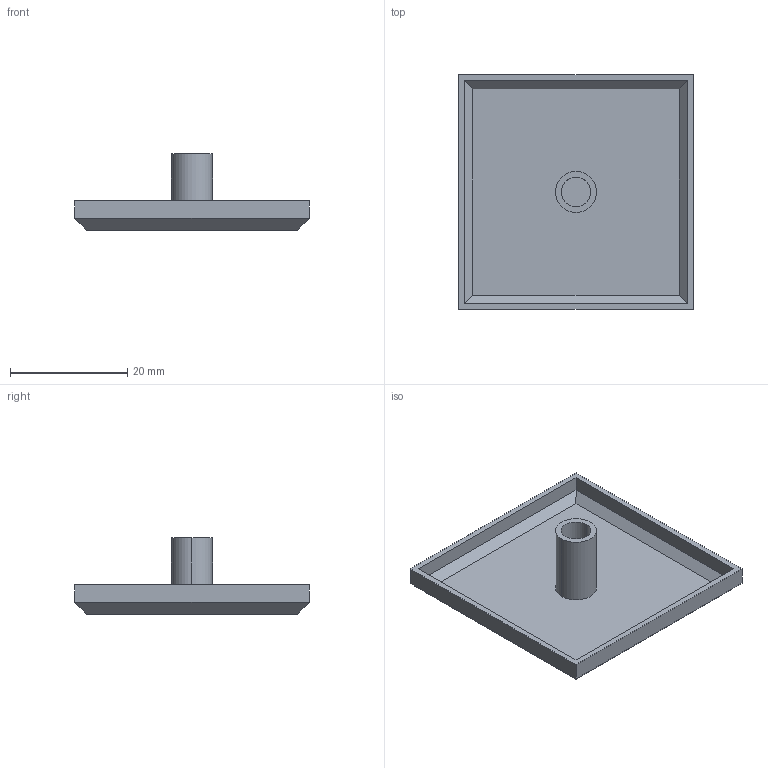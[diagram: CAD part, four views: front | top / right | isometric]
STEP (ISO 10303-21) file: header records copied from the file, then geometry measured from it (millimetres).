
FILE_DESCRIPTION (( 'STEP AP203' ), '1' );
FILE_NAME ('168-CE-CP-4040.STEP', '2015-07-09T09:13:09', ( '' ), ( '' ), 'SwSTEP 2.0', 'SolidWorks 2013', '' );
FILE_SCHEMA (( 'CONFIG_CONTROL_DESIGN' ));
Length unit declared in the file: millimetre
Products named in the file (1): 168-CE-CP-4040
Bounding box: 40 x 40 x 13 mm (x, y, z)
Volume: 2289.1 mm3; surface area: 4737.1 mm2
Topology: 1 solids, 1 shells, 25 faces, 52 edges, 32 vertices
Faces by surface type: plane 21, cylinder 4
Entity records: 727 total; most frequent: DIRECTION 112, CARTESIAN_POINT 110, ORIENTED_EDGE 104, EDGE_CURVE 52, LINE 44, VECTOR 44, AXIS2_PLACEMENT_3D 34, VERTEX_POINT 32
